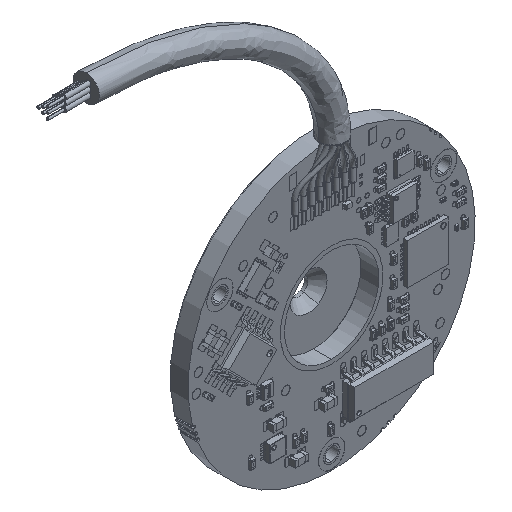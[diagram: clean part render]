
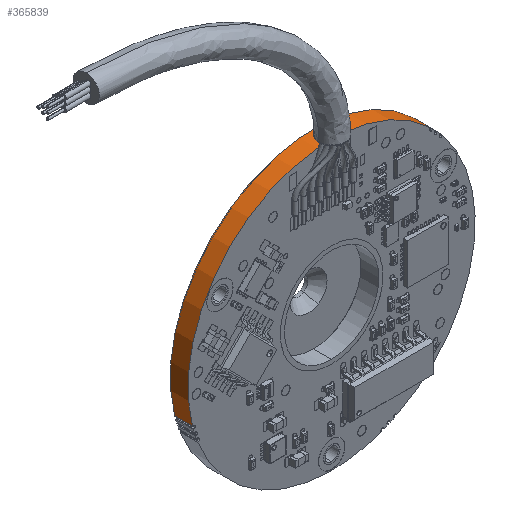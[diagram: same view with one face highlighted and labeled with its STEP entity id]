
A CAD part, isometric view. The second image highlights one B-rep face of the part: STEP entity #365839.
In plain terms, the highlighted cylindrical face has radius 17.5 mm (diameter 35 mm), a partial arc.
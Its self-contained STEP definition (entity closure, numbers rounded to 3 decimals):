
#21619 = DIRECTION ( 'NONE',  ( 0., -1., 0. ) ) ;
#38344 = DIRECTION ( 'NONE',  ( 0., 1., 0. ) ) ;
#54806 = ORIENTED_EDGE ( 'NONE', *, *, #124769, .F. ) ;
#63441 = CARTESIAN_POINT ( 'NONE',  ( -16.943, 0., -4.379 ) ) ;
#70037 = EDGE_CURVE ( 'NONE', #102288, #268615, #165317, .T. ) ;
#90829 = DIRECTION ( 'NONE',  ( 0., 0., -1. ) ) ;
#96531 = CARTESIAN_POINT ( 'NONE',  ( 12.086, 2.17, 12.656 ) ) ;
#102288 = VERTEX_POINT ( 'NONE', #230796 ) ;
#105591 = CIRCLE ( 'NONE', #337682, 17.5 ) ;
#119579 = CARTESIAN_POINT ( 'NONE',  ( 0., 2.17, 0. ) ) ;
#123523 = VECTOR ( 'NONE', #21619, 1000. ) ;
#124769 = EDGE_CURVE ( 'NONE', #102288, #298702, #105591, .T. ) ;
#136707 = VECTOR ( 'NONE', #178509, 1000. ) ;
#157011 = ORIENTED_EDGE ( 'NONE', *, *, #70037, .T. ) ;
#165317 = LINE ( 'NONE', #308824, #123523 ) ;
#178509 = DIRECTION ( 'NONE',  ( 0., -1., 0. ) ) ;
#182566 = EDGE_LOOP ( 'NONE', ( #216540, #375819, #54806, #157011 ) ) ;
#205724 = FACE_OUTER_BOUND ( 'NONE', #182566, .T. ) ;
#209507 = VERTEX_POINT ( 'NONE', #211780 ) ;
#209717 = DIRECTION ( 'NONE',  ( 0., 0., 1. ) ) ;
#211780 = CARTESIAN_POINT ( 'NONE',  ( 12.086, 0., 12.656 ) ) ;
#214772 = LINE ( 'NONE', #331354, #136707 ) ;
#216540 = ORIENTED_EDGE ( 'NONE', *, *, #248669, .T. ) ;
#230796 = CARTESIAN_POINT ( 'NONE',  ( -16.943, 2.17, -4.379 ) ) ;
#236248 = DIRECTION ( 'NONE',  ( 0., -1., 0. ) ) ;
#248669 = EDGE_CURVE ( 'NONE', #268615, #209507, #320906, .T. ) ;
#263190 = DIRECTION ( 'NONE',  ( 0., 1., 0. ) ) ;
#265096 = EDGE_CURVE ( 'NONE', #298702, #209507, #214772, .T. ) ;
#268615 = VERTEX_POINT ( 'NONE', #63441 ) ;
#298702 = VERTEX_POINT ( 'NONE', #96531 ) ;
#308824 = CARTESIAN_POINT ( 'NONE',  ( -16.943, 2.201, -4.379 ) ) ;
#318689 = AXIS2_PLACEMENT_3D ( 'NONE', #119579, #236248, #90829 ) ;
#320906 = CIRCLE ( 'NONE', #363787, 17.5 ) ;
#322353 = CYLINDRICAL_SURFACE ( 'NONE', #318689, 17.5 ) ;
#327389 = DIRECTION ( 'NONE',  ( 0., 0., 1. ) ) ;
#329251 = CARTESIAN_POINT ( 'NONE',  ( 0., 0., 0. ) ) ;
#330055 = CARTESIAN_POINT ( 'NONE',  ( 0., 2.17, 0. ) ) ;
#331354 = CARTESIAN_POINT ( 'NONE',  ( 12.086, 2.201, 12.656 ) ) ;
#337682 = AXIS2_PLACEMENT_3D ( 'NONE', #330055, #263190, #209717 ) ;
#363787 = AXIS2_PLACEMENT_3D ( 'NONE', #329251, #38344, #327389 ) ;
#365839 = ADVANCED_FACE ( 'NONE', ( #205724 ), #322353, .T. ) ;
#375819 = ORIENTED_EDGE ( 'NONE', *, *, #265096, .F. ) ;
